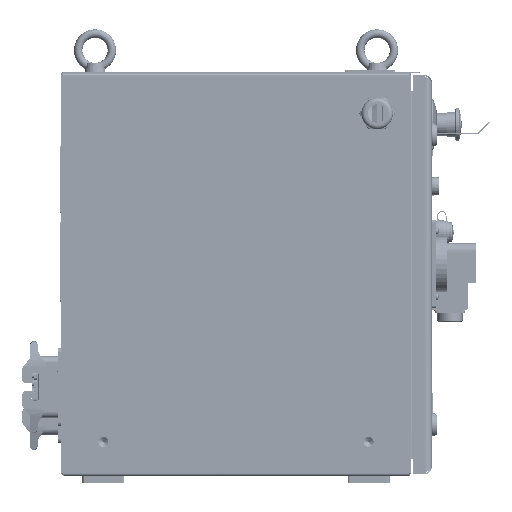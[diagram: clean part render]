
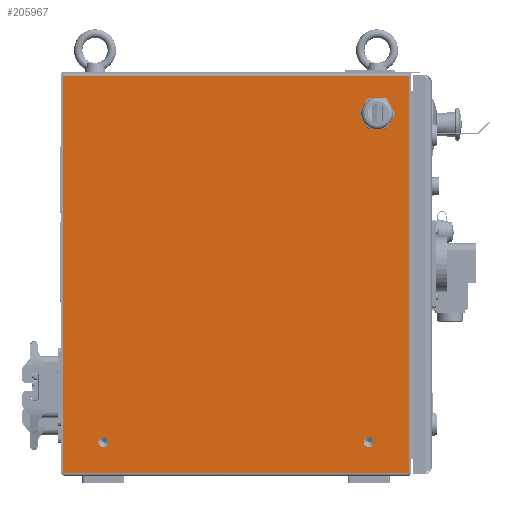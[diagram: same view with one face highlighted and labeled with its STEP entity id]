
A CAD part, left-side view. The second image highlights one B-rep face of the part: STEP entity #205967.
In plain terms, the highlighted planar face has unit normal (-1, 0, 0).
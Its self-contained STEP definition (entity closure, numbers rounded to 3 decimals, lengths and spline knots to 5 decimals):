
#52809=DIRECTION('',(0.,0.,-1.));
#52810=VECTOR('',#52809,0.472);
#52811=CARTESIAN_POINT('',(-0.275,-0.2059,0.4736));
#52812=LINE('',#52811,#52810);
#52845=CARTESIAN_POINT('',(-0.275,0.1575,0.0388));
#52846=DIRECTION('',(1.,0.,0.));
#52847=DIRECTION('',(0.,1.,0.));
#52848=AXIS2_PLACEMENT_3D('',#52845,#52846,#52847);
#52850=CARTESIAN_POINT('',(-0.275,0.1575,0.0388));
#52851=DIRECTION('',(1.,0.,0.));
#52852=DIRECTION('',(0.,-1.,0.));
#52853=AXIS2_PLACEMENT_3D('',#52850,#52851,#52852);
#52855=CARTESIAN_POINT('',(-0.275,-0.1575,0.0388));
#52856=DIRECTION('',(1.,0.,0.));
#52857=DIRECTION('',(0.,1.,0.));
#52858=AXIS2_PLACEMENT_3D('',#52855,#52856,#52857);
#52860=CARTESIAN_POINT('',(-0.275,-0.1575,0.0388));
#52861=DIRECTION('',(1.,0.,0.));
#52862=DIRECTION('',(0.,-1.,0.));
#52863=AXIS2_PLACEMENT_3D('',#52860,#52861,#52862);
#52875=DIRECTION('',(0.,-1.,0.));
#52876=VECTOR('',#52875,0.01871);
#52877=CARTESIAN_POINT('',(-0.275,-0.15815,0.4475));
#52878=LINE('',#52877,#52876);
#52879=DIRECTION('',(0.,-0.866,0.5));
#52880=VECTOR('',#52879,0.0025);
#52881=CARTESIAN_POINT('',(-0.275,-0.15598,0.44625));
#52882=LINE('',#52881,#52880);
#52883=DIRECTION('',(0.,-0.5,0.866));
#52884=VECTOR('',#52883,0.01871);
#52885=CARTESIAN_POINT('',(-0.275,-0.14663,0.43005));
#52886=LINE('',#52885,#52884);
#52887=DIRECTION('',(0.,0.,1.));
#52888=VECTOR('',#52887,0.0025);
#52889=CARTESIAN_POINT('',(-0.275,-0.14663,0.42755));
#52890=LINE('',#52889,#52888);
#52891=DIRECTION('',(0.,0.5,0.866));
#52892=VECTOR('',#52891,0.01871);
#52893=CARTESIAN_POINT('',(-0.275,-0.15598,0.41135));
#52894=LINE('',#52893,#52892);
#52895=DIRECTION('',(0.,0.866,0.5));
#52896=VECTOR('',#52895,0.0025);
#52897=CARTESIAN_POINT('',(-0.275,-0.15815,0.4101));
#52898=LINE('',#52897,#52896);
#52899=DIRECTION('',(0.,1.,0.));
#52900=VECTOR('',#52899,0.01871);
#52901=CARTESIAN_POINT('',(-0.275,-0.17685,0.4101));
#52902=LINE('',#52901,#52900);
#52903=DIRECTION('',(0.,0.866,-0.5));
#52904=VECTOR('',#52903,0.0025);
#52905=CARTESIAN_POINT('',(-0.275,-0.17902,0.41135));
#52906=LINE('',#52905,#52904);
#52907=DIRECTION('',(0.,0.5,-0.866));
#52908=VECTOR('',#52907,0.01871);
#52909=CARTESIAN_POINT('',(-0.275,-0.18837,0.42755));
#52910=LINE('',#52909,#52908);
#52911=DIRECTION('',(0.,0.,1.));
#52912=VECTOR('',#52911,0.0025);
#52913=CARTESIAN_POINT('',(-0.275,-0.18837,0.42755));
#52914=LINE('',#52913,#52912);
#52915=DIRECTION('',(0.,-0.5,-0.866));
#52916=VECTOR('',#52915,0.01871);
#52917=CARTESIAN_POINT('',(-0.275,-0.17902,0.44625));
#52918=LINE('',#52917,#52916);
#52919=DIRECTION('',(0.,-0.866,-0.5));
#52920=VECTOR('',#52919,0.0025);
#52921=CARTESIAN_POINT('',(-0.275,-0.17685,0.4475));
#52922=LINE('',#52921,#52920);
#53118=DIRECTION('',(0.,0.,1.));
#53119=VECTOR('',#53118,0.472);
#53120=CARTESIAN_POINT('',(-0.275,0.2059,0.0016));
#53121=LINE('',#53120,#53119);
#53143=DIRECTION('',(0.,-1.,0.));
#53144=VECTOR('',#53143,0.4118);
#53145=CARTESIAN_POINT('',(-0.275,0.2059,0.4736));
#53146=LINE('',#53145,#53144);
#61070=DIRECTION('',(0.,1.,0.));
#61071=VECTOR('',#61070,0.4118);
#61072=CARTESIAN_POINT('',(-0.275,-0.2059,0.0016));
#61073=LINE('',#61072,#61071);
#61085=CARTESIAN_POINT('',(-0.275,-0.2059,0.0016));
#107414=CARTESIAN_POINT('',(-0.275,0.2059,0.0016));
#107415=VERTEX_POINT('',#107414);
#107419=VERTEX_POINT('',#61085);
#107477=CARTESIAN_POINT('',(-0.275,0.2059,0.4736));
#107478=CARTESIAN_POINT('',(-0.275,-0.2059,0.4736));
#107479=VERTEX_POINT('',#107477);
#107480=VERTEX_POINT('',#107478);
#107481=CARTESIAN_POINT('',(-0.275,-0.1635,0.0388));
#107482=CARTESIAN_POINT('',(-0.275,-0.1515,0.0388));
#107483=VERTEX_POINT('',#107481);
#107484=VERTEX_POINT('',#107482);
#107485=CARTESIAN_POINT('',(-0.275,0.1515,0.0388));
#107486=CARTESIAN_POINT('',(-0.275,0.1635,0.0388));
#107487=VERTEX_POINT('',#107485);
#107488=VERTEX_POINT('',#107486);
#135054=CARTESIAN_POINT('',(-0.275,-0.15815,0.4475));
#135055=CARTESIAN_POINT('',(-0.275,-0.17685,0.4475));
#135056=VERTEX_POINT('',#135054);
#135057=VERTEX_POINT('',#135055);
#135058=CARTESIAN_POINT('',(-0.275,-0.15598,0.44625));
#135059=VERTEX_POINT('',#135058);
#135060=CARTESIAN_POINT('',(-0.275,-0.14663,0.43005));
#135061=VERTEX_POINT('',#135060);
#135062=CARTESIAN_POINT('',(-0.275,-0.14663,0.42755));
#135063=VERTEX_POINT('',#135062);
#135064=CARTESIAN_POINT('',(-0.275,-0.15598,0.41135));
#135065=VERTEX_POINT('',#135064);
#135066=CARTESIAN_POINT('',(-0.275,-0.15815,0.4101));
#135067=VERTEX_POINT('',#135066);
#135068=CARTESIAN_POINT('',(-0.275,-0.17685,0.4101));
#135069=VERTEX_POINT('',#135068);
#135070=CARTESIAN_POINT('',(-0.275,-0.17902,0.41135));
#135071=VERTEX_POINT('',#135070);
#135072=CARTESIAN_POINT('',(-0.275,-0.18837,0.42755));
#135073=VERTEX_POINT('',#135072);
#135074=CARTESIAN_POINT('',(-0.275,-0.18837,0.43005));
#135075=VERTEX_POINT('',#135074);
#135076=CARTESIAN_POINT('',(-0.275,-0.17902,0.44625));
#135077=VERTEX_POINT('',#135076);
#205915=CARTESIAN_POINT('',(-0.275,0.2043,0.0016));
#205916=DIRECTION('',(1.,0.,0.));
#205917=DIRECTION('',(0.,0.,1.));
#205918=AXIS2_PLACEMENT_3D('',#205915,#205916,#205917);
#205919=PLANE('',#205918);
#205921=ORIENTED_EDGE('',*,*,#205920,.T.);
#205923=ORIENTED_EDGE('',*,*,#205922,.T.);
#205924=ORIENTED_EDGE('',*,*,#205897,.T.);
#205926=ORIENTED_EDGE('',*,*,#205925,.T.);
#205927=EDGE_LOOP('',(#205921,#205923,#205924,#205926));
#205928=FACE_OUTER_BOUND('',#205927,.F.);
#205930=ORIENTED_EDGE('',*,*,#205929,.F.);
#205932=ORIENTED_EDGE('',*,*,#205931,.F.);
#205933=EDGE_LOOP('',(#205930,#205932));
#205934=FACE_BOUND('',#205933,.F.);
#205936=ORIENTED_EDGE('',*,*,#205935,.F.);
#205938=ORIENTED_EDGE('',*,*,#205937,.F.);
#205939=EDGE_LOOP('',(#205936,#205938));
#205940=FACE_BOUND('',#205939,.F.);
#205942=ORIENTED_EDGE('',*,*,#205941,.F.);
#205944=ORIENTED_EDGE('',*,*,#205943,.F.);
#205946=ORIENTED_EDGE('',*,*,#205945,.F.);
#205948=ORIENTED_EDGE('',*,*,#205947,.F.);
#205950=ORIENTED_EDGE('',*,*,#205949,.F.);
#205952=ORIENTED_EDGE('',*,*,#205951,.F.);
#205954=ORIENTED_EDGE('',*,*,#205953,.F.);
#205956=ORIENTED_EDGE('',*,*,#205955,.F.);
#205958=ORIENTED_EDGE('',*,*,#205957,.F.);
#205960=ORIENTED_EDGE('',*,*,#205959,.T.);
#205962=ORIENTED_EDGE('',*,*,#205961,.F.);
#205964=ORIENTED_EDGE('',*,*,#205963,.F.);
#205965=EDGE_LOOP('',(#205942,#205944,#205946,#205948,#205950,#205952,#205954,
#205956,#205958,#205960,#205962,#205964));
#205966=FACE_BOUND('',#205965,.F.);
#205967=ADVANCED_FACE('',(#205928,#205934,#205940,#205966),#205919,.F.);
#52849=CIRCLE('',#52848,0.006);
#52854=CIRCLE('',#52853,0.006);
#52859=CIRCLE('',#52858,0.006);
#52864=CIRCLE('',#52863,0.006);
#205897=EDGE_CURVE('',#107480,#107419,#52812,.T.);
#205920=EDGE_CURVE('',#107415,#107479,#53121,.T.);
#205922=EDGE_CURVE('',#107479,#107480,#53146,.T.);
#205925=EDGE_CURVE('',#107419,#107415,#61073,.T.);
#205929=EDGE_CURVE('',#107488,#107487,#52849,.T.);
#205931=EDGE_CURVE('',#107487,#107488,#52854,.T.);
#205935=EDGE_CURVE('',#107484,#107483,#52859,.T.);
#205937=EDGE_CURVE('',#107483,#107484,#52864,.T.);
#205941=EDGE_CURVE('',#135056,#135057,#52878,.T.);
#205943=EDGE_CURVE('',#135059,#135056,#52882,.T.);
#205945=EDGE_CURVE('',#135061,#135059,#52886,.T.);
#205947=EDGE_CURVE('',#135063,#135061,#52890,.T.);
#205949=EDGE_CURVE('',#135065,#135063,#52894,.T.);
#205951=EDGE_CURVE('',#135067,#135065,#52898,.T.);
#205953=EDGE_CURVE('',#135069,#135067,#52902,.T.);
#205955=EDGE_CURVE('',#135071,#135069,#52906,.T.);
#205957=EDGE_CURVE('',#135073,#135071,#52910,.T.);
#205959=EDGE_CURVE('',#135073,#135075,#52914,.T.);
#205961=EDGE_CURVE('',#135077,#135075,#52918,.T.);
#205963=EDGE_CURVE('',#135057,#135077,#52922,.T.);
